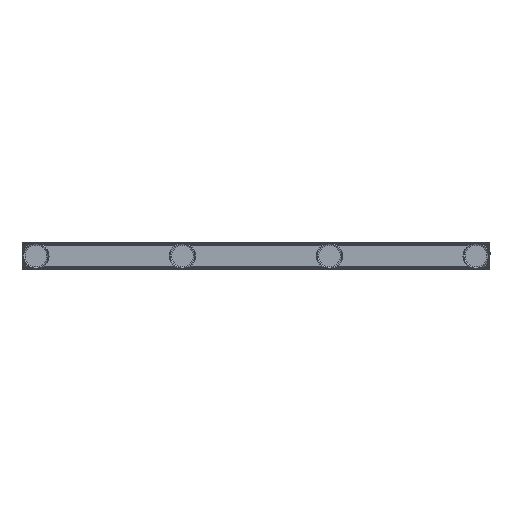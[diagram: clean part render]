
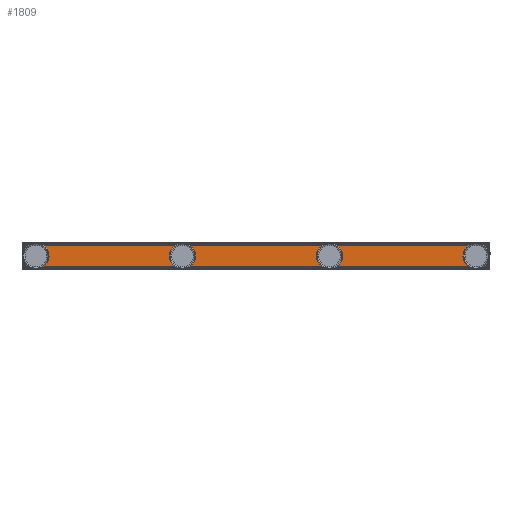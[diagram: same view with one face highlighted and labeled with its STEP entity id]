
A CAD part, front view. The second image highlights one B-rep face of the part: STEP entity #1809.
In plain terms, the highlighted planar face has unit normal (0, -1, 0).
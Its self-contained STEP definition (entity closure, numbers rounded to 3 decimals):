
#180=PLANE('',#2025);
#290=FACE_OUTER_BOUND('',#403,.T.);
#403=EDGE_LOOP('',(#1645,#1646,#1647,#1648));
#553=LINE('',#3233,#715);
#555=LINE('',#3240,#717);
#557=LINE('',#3246,#719);
#559=LINE('',#3250,#721);
#715=VECTOR('',#2489,10.);
#717=VECTOR('',#2497,10.);
#719=VECTOR('',#2503,10.);
#721=VECTOR('',#2509,10.);
#935=VERTEX_POINT('',#3231);
#936=VERTEX_POINT('',#3232);
#938=VERTEX_POINT('',#3239);
#940=VERTEX_POINT('',#3245);
#1170=EDGE_CURVE('',#935,#936,#553,.T.);
#1174=EDGE_CURVE('',#936,#938,#555,.T.);
#1177=EDGE_CURVE('',#938,#940,#557,.T.);
#1180=EDGE_CURVE('',#940,#935,#559,.T.);
#1645=ORIENTED_EDGE('',*,*,#1170,.F.);
#1646=ORIENTED_EDGE('',*,*,#1180,.F.);
#1647=ORIENTED_EDGE('',*,*,#1177,.F.);
#1648=ORIENTED_EDGE('',*,*,#1174,.F.);
#1809=ADVANCED_FACE('',(#290),#180,.T.);
#2025=AXIS2_PLACEMENT_3D('',#3253,#2513,#2514);
#2489=DIRECTION('',(1.,0.,0.));
#2497=DIRECTION('',(0.,0.,-1.));
#2503=DIRECTION('',(-1.,0.,0.));
#2509=DIRECTION('',(0.,0.,1.));
#2513=DIRECTION('center_axis',(0.,-1.,0.));
#2514=DIRECTION('ref_axis',(0.,0.,-1.));
#3231=CARTESIAN_POINT('',(-353.,-20.,18.));
#3232=CARTESIAN_POINT('',(353.,-20.,18.));
#3233=CARTESIAN_POINT('',(177.5,-20.,18.));
#3239=CARTESIAN_POINT('',(353.,-20.,-18.));
#3240=CARTESIAN_POINT('',(353.,-20.,-10.));
#3245=CARTESIAN_POINT('',(-353.,-20.,-18.));
#3246=CARTESIAN_POINT('',(-177.5,-20.,-18.));
#3250=CARTESIAN_POINT('',(-353.,-20.,10.));
#3253=CARTESIAN_POINT('Origin',(0.,-20.,0.));
